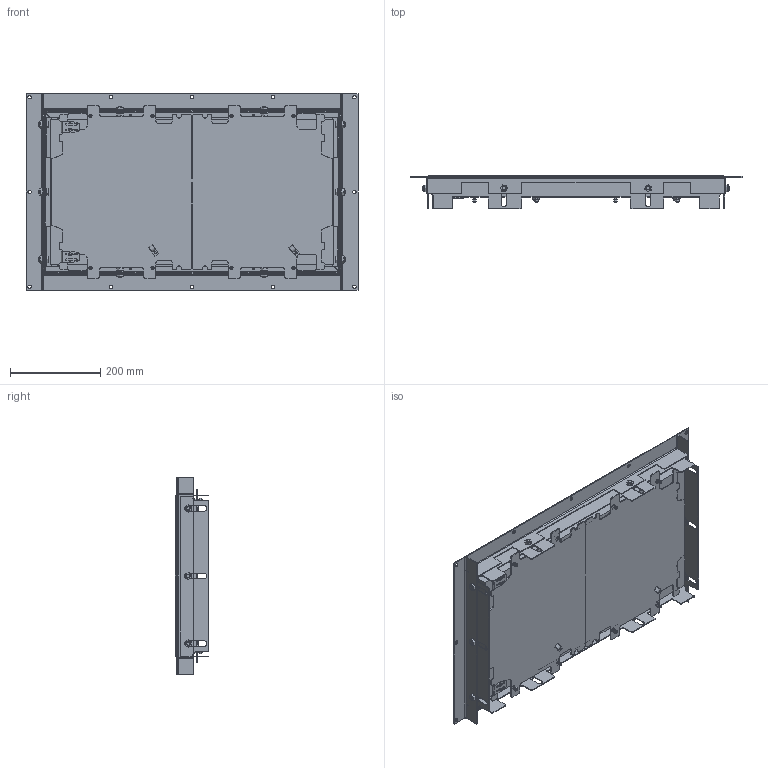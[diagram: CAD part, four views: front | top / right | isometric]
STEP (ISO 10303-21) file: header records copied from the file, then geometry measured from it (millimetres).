
FILE_DESCRIPTION (( 'STEP AP214' ), '1' );
FILE_NAME ('MS-I-20-P_123564_120718_123563.STEP', '2019-02-07T08:17:54', ( '' ), ( '' ), 'SwSTEP 2.0', 'SolidWorks 2018', '' );
FILE_SCHEMA (( 'AUTOMOTIVE_DESIGN' ));
Length unit declared in the file: millimetre
Products named in the file (1): MS-I-20-P_123564_120718_123563
Bounding box: 737 x 74.4 x 437 mm (x, y, z)
Volume: 10508143 mm3; surface area: 1161515.6 mm2
Topology: 1 solids, 1 shells, 2336 faces, 5952 edges, 3596 vertices
Faces by surface type: cylinder 914, plane 905, bspline 244, torus 120, cone 105, sphere 48
Entity records: 107206 total; most frequent: CARTESIAN_POINT 26789, ORIENTED_EDGE 11648, DIRECTION 11262, EDGE_CURVE 5824, AXIS2_PLACEMENT_3D 4217, VERTEX_POINT 3596, VECTOR 2828, LINE 2828
